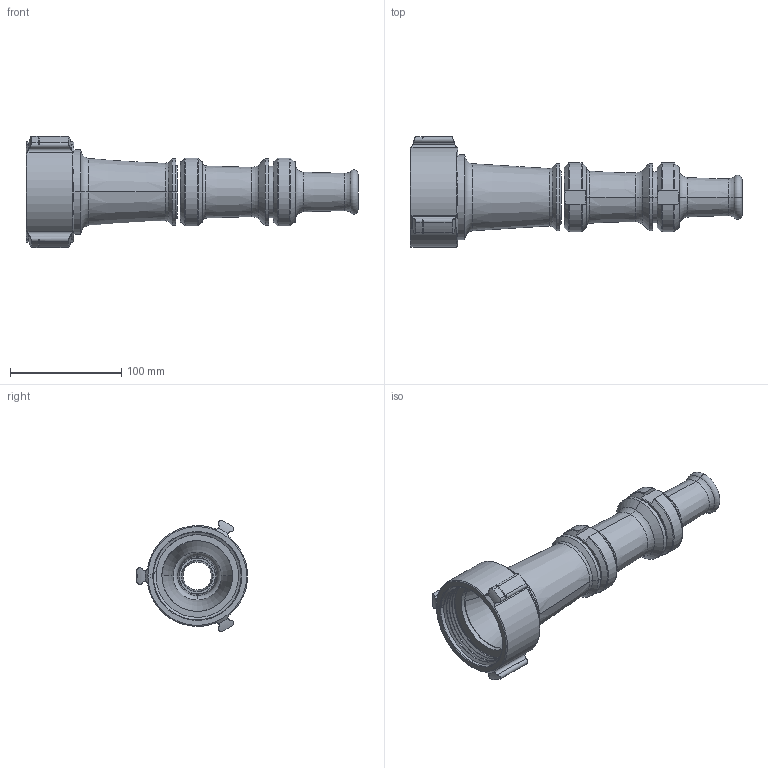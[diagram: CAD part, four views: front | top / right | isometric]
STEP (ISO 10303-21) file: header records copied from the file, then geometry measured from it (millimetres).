
FILE_DESCRIPTION (( 'STEP AP203' ), '1' );
FILE_NAME ('MST-3NJ.step', '2014-05-13T19:41:35', ( 'user' ), ( '' ), 'SwSTEP 2.0', 'SolidWorks 2012', '' );
FILE_SCHEMA (( 'CONFIG_CONTROL_DESIGN' ));
Length unit declared in the file: inch
Products named in the file (1): MST-3NJ
Bounding box: 297.83 x 99.55 x 99.67 mm (x, y, z)
Surface area: 91190.3 mm2 (no closed solid volume)
Topology: 0 solids, 8 shells, 212 faces, 588 edges, 381 vertices
Faces by surface type: cylinder 83, plane 47, cone 45, torus 36, bspline 1
Entity records: 8003 total; most frequent: CARTESIAN_POINT 2794, ORIENTED_EDGE 1090, DIRECTION 1017, EDGE_CURVE 588, AXIS2_PLACEMENT_3D 400, VERTEX_POINT 381, EDGE_LOOP 227, LINE 217
